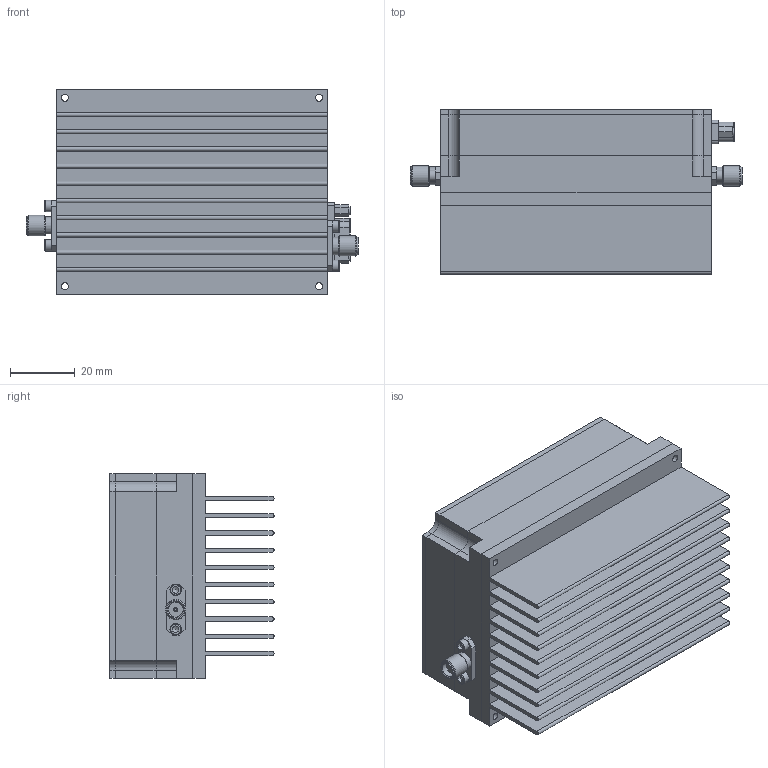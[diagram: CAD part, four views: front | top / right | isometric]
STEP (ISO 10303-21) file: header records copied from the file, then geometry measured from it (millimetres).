
FILE_DESCRIPTION((''),'2;1');
FILE_NAME('\\SERPENTOR\Engineering\ENG\Models\TAxxxx\TA1046 500-2500 MHz 20W\Inventor\OL_177.stp','2017-08-18T13:46:23',('Jack Slater'),(''),'Autodesk Inventor 2013','Autodesk Inventor 2013','');
FILE_SCHEMA(('AUTOMOTIVE_DESIGN { 1 0 10303 214 1 1 1 1 }'));
Length unit declared in the file: inch
Products named in the file (10): TA1046 (LevelofDetail1); T531491011; 410-003; Hexagon Socket Head Cap Screw - Inch No. 2 - 56 UNC - 3/16; T501491006; T521491008; Top Assy; T531491012; 400-066; 561-011
Assembly tree (14 placements, depth 3):
  TA1046 (LevelofDetail1)
    T531491011
    410-003  x2
    Hexagon Socket Head Cap Screw - Inch No. 2 - 56 UNC - 3/16  x4
    T501491006
    T521491008
    Top Assy
      T531491012
    400-066
    561-011  x2
Bounding box: 102.87 x 50.88 x 63.5 mm (x, y, z)
Volume: 96139.5 mm3; surface area: 97305.4 mm2
Topology: 13 solids, 13 shells, 746 faces, 1884 edges, 1232 vertices
Faces by surface type: plane 350, cylinder 296, cone 57, torus 35, bspline 8
Full cylindrical faces by diameter (mm): 0.254 x2, 0.508 x18, 0.635 x9, 0.737 x2, 0.762 x9, 1.245 x2, 1.295 x2, 1.321 x20, 1.702 x21, 1.778 x8, 2.159 x6, 2.184 x6, 2.21 x2, 2.261 x8, 2.54 x4, 2.591 x4, 3.277 x4, 3.556 x4, 4.318 x8, 4.597 x2, 5.486 x4, 6.35 x2
Entity records: 19675 total; most frequent: CARTESIAN_POINT 3809, DIRECTION 3342, ORIENTED_EDGE 2824, EDGE_CURVE 1412, AXIS2_PLACEMENT_3D 1273, VERTEX_POINT 1026, EDGE_LOOP 992, VECTOR 796
